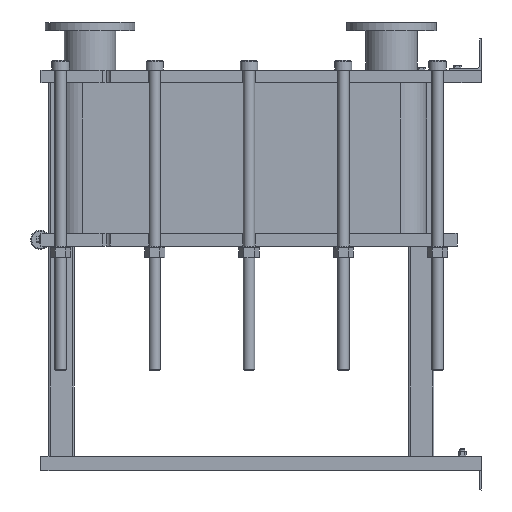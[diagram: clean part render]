
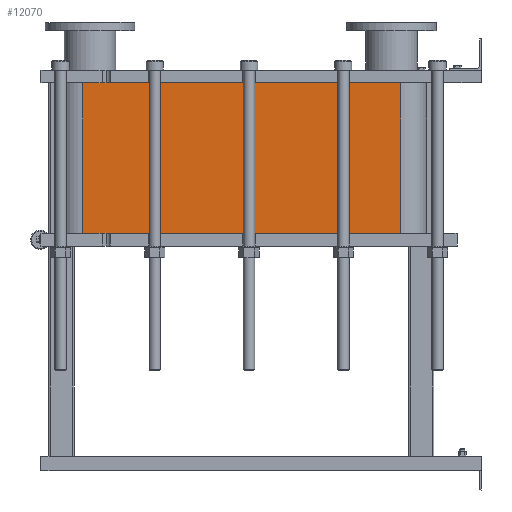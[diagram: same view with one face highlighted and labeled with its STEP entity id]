
A CAD part, left-side view. The second image highlights one B-rep face of the part: STEP entity #12070.
In plain terms, the highlighted planar face has unit normal (-1, 0, 0).
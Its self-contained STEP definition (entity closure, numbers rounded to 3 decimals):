
#1064=LINE('',#21140,#2164);
#1065=LINE('',#21144,#2165);
#1066=LINE('',#21146,#2166);
#1067=LINE('',#21147,#2167);
#2164=VECTOR('',#15790,10.);
#2165=VECTOR('',#15795,10.);
#2166=VECTOR('',#15796,10.);
#2167=VECTOR('',#15797,10.);
#3304=FACE_OUTER_BOUND('',#4091,.T.);
#4091=EDGE_LOOP('',(#9793,#9794,#9795,#9796));
#5677=VERTEX_POINT('',#21137);
#5678=VERTEX_POINT('',#21139);
#5679=VERTEX_POINT('',#21143);
#5680=VERTEX_POINT('',#21145);
#7118=EDGE_CURVE('',#5678,#5677,#1064,.T.);
#7120=EDGE_CURVE('',#5677,#5679,#1065,.T.);
#7121=EDGE_CURVE('',#5680,#5679,#1066,.T.);
#7122=EDGE_CURVE('',#5680,#5678,#1067,.T.);
#9793=ORIENTED_EDGE('',*,*,#7120,.T.);
#9794=ORIENTED_EDGE('',*,*,#7121,.F.);
#9795=ORIENTED_EDGE('',*,*,#7122,.T.);
#9796=ORIENTED_EDGE('',*,*,#7118,.T.);
#11441=PLANE('',#13191);
#12070=ADVANCED_FACE('',(#3304),#11441,.T.);
#13191=AXIS2_PLACEMENT_3D('',#21142,#15793,#15794);
#15790=DIRECTION('',(0.,0.,-1.));
#15793=DIRECTION('center_axis',(-1.,0.,0.));
#15794=DIRECTION('ref_axis',(0.,1.,0.));
#15795=DIRECTION('',(0.,-1.,0.));
#15796=DIRECTION('',(0.,0.,-1.));
#15797=DIRECTION('',(0.,1.,0.));
#21137=CARTESIAN_POINT('',(-248.152,1243.818,-469.2));
#21139=CARTESIAN_POINT('',(-248.152,1243.818,0.));
#21140=CARTESIAN_POINT('',(-248.152,1243.818,0.));
#21142=CARTESIAN_POINT('Origin',(-248.152,251.818,0.));
#21143=CARTESIAN_POINT('',(-248.152,251.818,-469.2));
#21144=CARTESIAN_POINT('',(-248.152,499.818,-469.2));
#21145=CARTESIAN_POINT('',(-248.152,251.818,0.));
#21146=CARTESIAN_POINT('',(-248.152,251.818,0.));
#21147=CARTESIAN_POINT('',(-248.152,251.818,0.));
